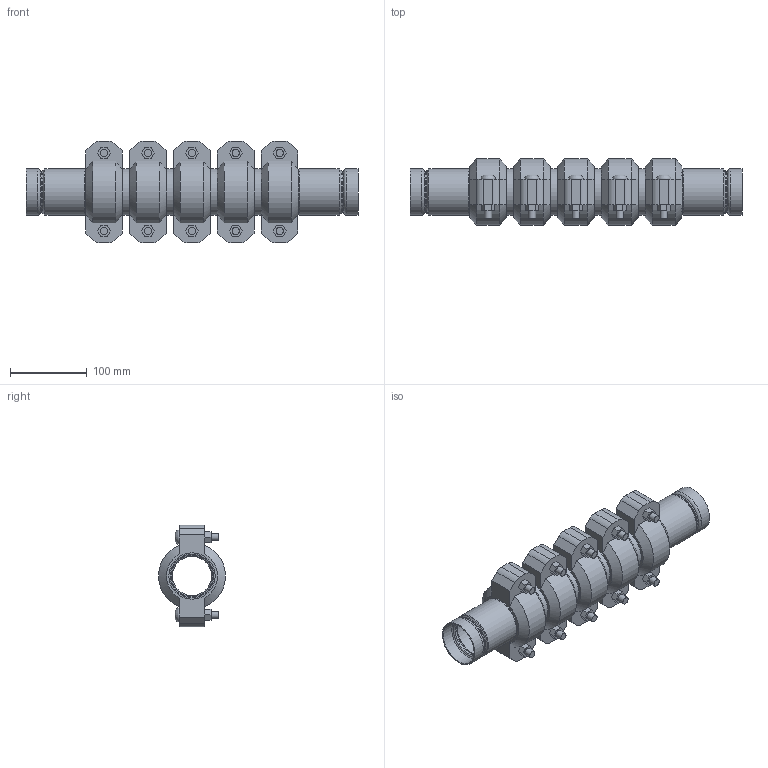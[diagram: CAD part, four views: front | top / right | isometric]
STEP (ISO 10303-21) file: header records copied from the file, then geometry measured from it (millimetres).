
FILE_DESCRIPTION(/* description */ ('VIC STRENGTHIN 100 EXPANSION JOINT 5 COUPLINGS COMPRESSED STYLE E155 (ST1)','CAx-IF Rec.Pracs.---Representation and Presentation of Product Manufacturing Information (PMI)---4.0---2014-10-13'),/* implementation_level */ '2;1');
FILE_NAME(/* name */ 'C:\Users\Vjadhav\AppData\Roaming\Autodesk\ApplicationPlugins\Victaulic.Temp\A149\Victaulic_SS-StrengThin 100_Expansion Joint_Compressed_5 Couplings_Style E155 (ST1)_2 (50).stp',/* time_stamp */ '2021-07-23T12:32:26+05:00',/* author */ ('kkamble'),/* organization */ ('Victaulic'),/* preprocessor_version */ 'ST-DEVELOPER v17.2',/* originating_system */ 'Autodesk Inventor 2019',/* authorisation */ '');
FILE_SCHEMA (('AP242_MANAGED_MODEL_BASED_3D_ENGINEERING_MIM_LF { 1 0 10303 442 1 1 4 }'));
Length unit declared in the file: inch
Products named in the file (4): E155-02.0; E494G-02.0; Nipple-02.0; 075-02.0
Assembly tree (11 placements, depth 2):
  E155-02.0
    E494G-02.0  x2
    Nipple-02.0  x4
    075-02.0  x5
Bounding box: 432.82 x 87.12 x 132.59 mm (x, y, z)
Volume: 1200612.9 mm3; surface area: 362748.6 mm2
Topology: 11 solids, 21 shells, 381 faces, 977 edges, 692 vertices
Faces by surface type: plane 206, cylinder 109, torus 32, cone 24, bspline 10
Full cylindrical faces by diameter (mm): 9.525 x20, 11.43 x10, 51.13 x2, 52.502 x4, 53.95 x2, 54.331 x2, 57.125 x6, 57.15 x10, 60.325 x23
Entity records: 3647 total; most frequent: DIRECTION 647, CARTESIAN_POINT 643, ORIENTED_EDGE 536, AXIS2_PLACEMENT_3D 275, EDGE_CURVE 268, VERTEX_POINT 193, CIRCLE 163, EDGE_LOOP 123
